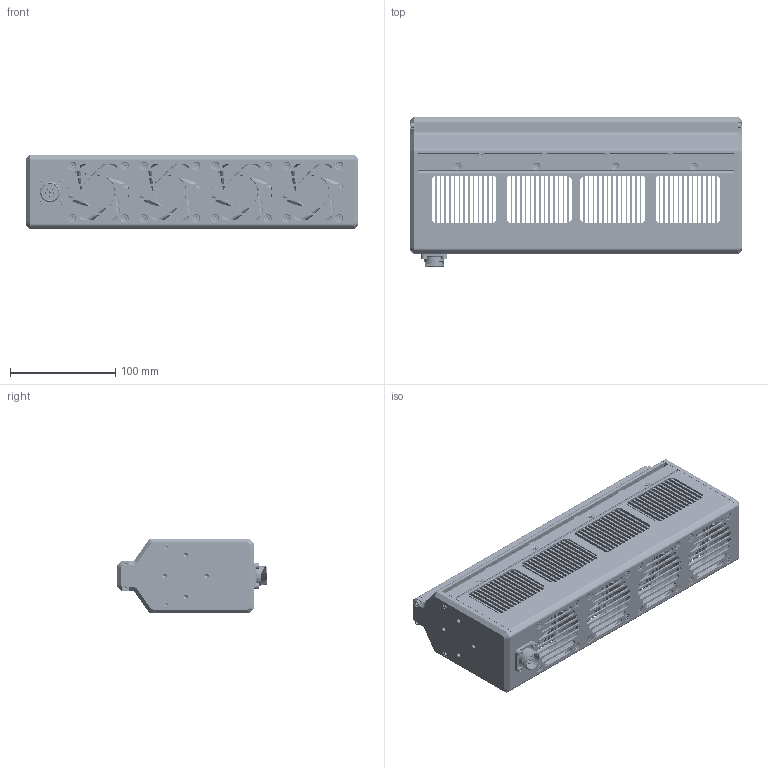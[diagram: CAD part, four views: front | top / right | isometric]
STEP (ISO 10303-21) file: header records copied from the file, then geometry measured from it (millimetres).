
FILE_DESCRIPTION((''),'2;1');
FILE_NAME('00-PL-VCSEL-ASSY-01_ASM','2024-05-21T15:31:52',('huguozhe'),(''),'CREO PARAMETRIC BY PTC INC, 2020044','CREO PARAMETRIC BY PTC INC, 2020044','');
FILE_SCHEMA(('AUTOMOTIVE_DESIGN { 1 0 10303 214 1 1 1 1 }'));
Products named in the file (20): DE-15-002902; DE-11-077029; 8002-CLS-M3-1; DE-11-077029_ASM; 19M-H_2; 19M-6P_2; 19M-6H_ASM; DE-18-000234; DE-15-002903; DE-19-009702; DE-20-026163_ASM; DE-14-054652; DE-14-054651_ASM; SC-HSCM3X8-SUS316; SC-K1M3X7-BNI; NUT-M4-GB6170; SC-AM3X10NL-BNI-SCM435-GB70_1; 101800581; SC-K1A5X10B; 00-PL-VCSEL-ASSY-01_ASM
Assembly tree (67 placements, depth 3):
  00-PL-VCSEL-ASSY-01_ASM
    DE-15-002902  x2
    DE-11-077029_ASM
      DE-11-077029
      8002-CLS-M3-1  x4
    19M-6H_ASM
      19M-H_2
      19M-6P_2
    DE-18-000234
    DE-20-026163_ASM  x2
      DE-15-002903
      DE-19-009702
    DE-14-054651_ASM  x2
      DE-14-054652
    SC-HSCM3X8-SUS316  x4
    SC-K1M3X7-BNI  x8
    NUT-M4-GB6170  x8
    SC-AM3X10NL-BNI-SCM435-GB70_1  x8
    101800581  x4
    SC-K1A5X10B  x16
Bounding box: 316 x 142.5 x 71 mm (x, y, z)
Volume: 1012353.7 mm3; surface area: 841963.1 mm2
Topology: 64 solids, 144 shells, 8037 faces, 21875 edges, 14055 vertices
Faces by surface type: plane 4159, cylinder 2030, bspline 864, cone 660, torus 228, sphere 88, extrusion 8
Entity records: 120399 total; most frequent: CARTESIAN_POINT 35848, ORIENTED_EDGE 14056, DIRECTION 12614, EDGE_CURVE 7074, PRESENTATION_STYLE_ASSIGNMENT 5410, STYLED_ITEM 5401, CURVE_STYLE 4864, VERTEX_POINT 4631
